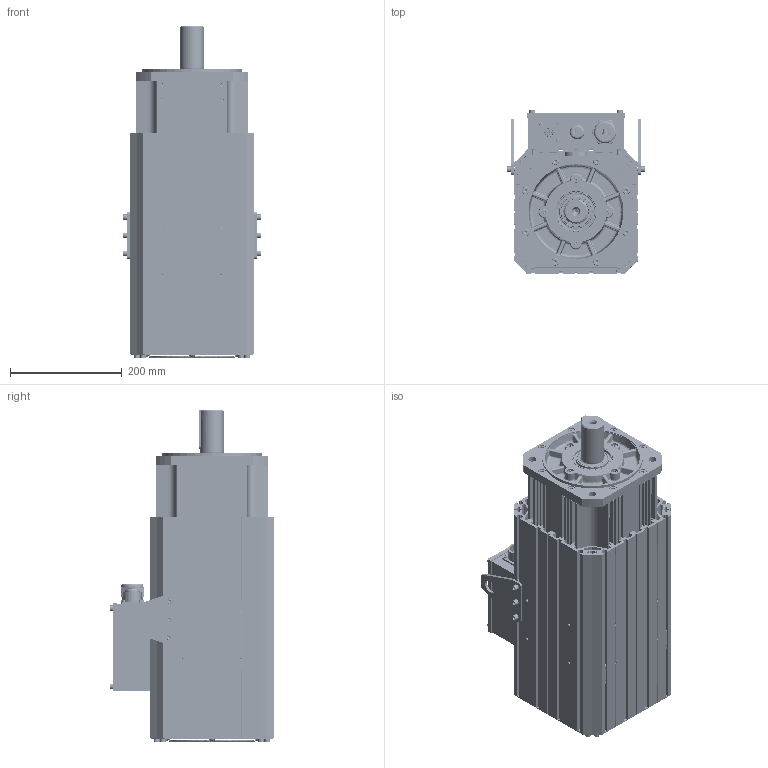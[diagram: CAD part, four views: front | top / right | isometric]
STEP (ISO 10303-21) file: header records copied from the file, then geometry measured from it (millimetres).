
FILE_DESCRIPTION (( 'STEP AP214' ), '1' );
FILE_NAME ('VM7-M20D-01115-D2FN.STEP', '2022-04-02T01:53:33', ( '' ), ( '' ), 'SwSTEP 2.0', 'SolidWorks 2014', '' );
FILE_SCHEMA (( 'AUTOMOTIVE_DESIGN' ));
Length unit declared in the file: millimetre
Products named in the file (3): VM7-M20D-01115-D2FN; 翋极ㄗVM7-M20Dㄘ; 俋褲ㄗVM7-M20Dㄘ
Assembly tree (2 placements, depth 2):
  VM7-M20D-01115-D2FN
    翋极ㄗVM7-M20Dㄘ
    俋褲ㄗVM7-M20Dㄘ
Bounding box: 246.2 x 294.7 x 594 mm (x, y, z)
Volume: 2134379.2 mm3; surface area: 2621531 mm2
Topology: 45 solids, 183 shells, 5660 faces, 14472 edges, 9117 vertices
Faces by surface type: plane 3221, cylinder 1323, cone 587, bspline 529
Entity records: 187119 total; most frequent: CARTESIAN_POINT 50233, ORIENTED_EDGE 28442, DIRECTION 27688, EDGE_CURVE 14230, AXIS2_PLACEMENT_3D 9527, VERTEX_POINT 9117, VECTOR 8634, LINE 8634
